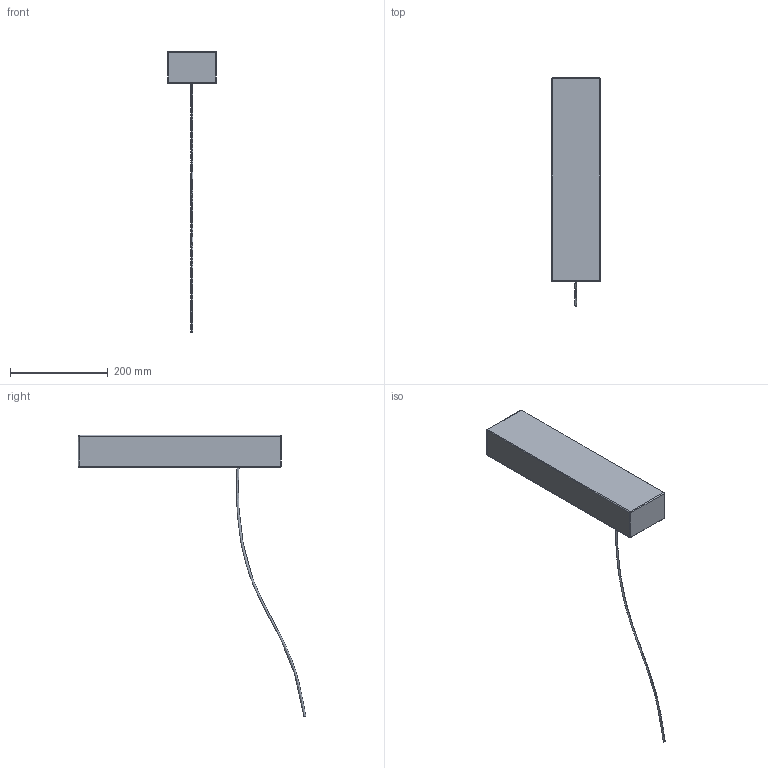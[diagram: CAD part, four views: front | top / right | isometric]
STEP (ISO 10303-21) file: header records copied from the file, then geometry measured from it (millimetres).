
FILE_DESCRIPTION(/* description */ (''),/* implementation_level */ '2;1');
FILE_NAME(/* name */ 'Small Rose',/* time_stamp */ '2018-11-07T17:41:58+01:00',/* author */ (''),/* organization */ (''),/* preprocessor_version */ 'ST-DEVELOPER v15',/* originating_system */ '',/* authorisation */ '');
FILE_SCHEMA (('AUTOMOTIVE_DESIGN'));
Length unit declared in the file: millimetre
Products named in the file (1): Document
Bounding box: 100 x 466.15 x 575.67 mm (x, y, z)
Volume: 2709203.9 mm3; surface area: 155648.6 mm2
Topology: 2 solids, 2 shells, 33 faces, 60 edges, 32 vertices
Faces by surface type: bspline 24, plane 9
Entity records: 1178 total; most frequent: CARTESIAN_POINT 767, ORIENTED_EDGE 120, EDGE_CURVE 60, EDGE_LOOP 34, ADVANCED_FACE 33, FACE_OUTER_BOUND 33, VERTEX_POINT 32, B_SPLINE_CURVE_WITH_KNOTS 26
